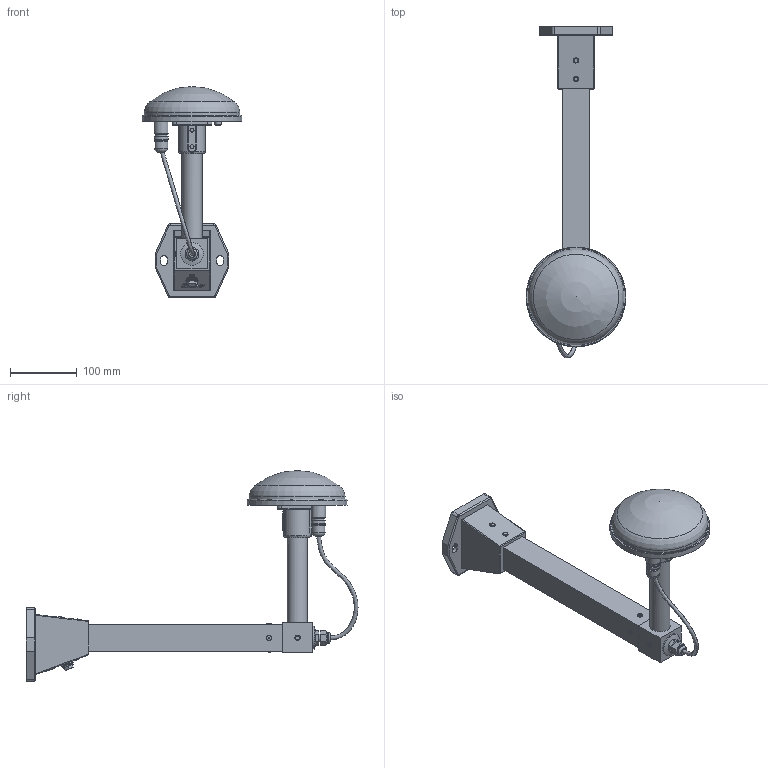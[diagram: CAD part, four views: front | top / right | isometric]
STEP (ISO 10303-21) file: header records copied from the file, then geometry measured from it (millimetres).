
FILE_DESCRIPTION(('FreeCAD Model'),'2;1');
FILE_NAME('Open CASCADE Shape Model','2022-03-23T12:42:27',('Author'),( ''),'Open CASCADE STEP processor 7.5','FreeCAD','Unknown');
FILE_SCHEMA(('AUTOMOTIVE_DESIGN { 1 0 10303 214 1 1 1 1 }'));
Length unit declared in the file: millimetre
Products named in the file (29): FG4490M00_gerade_mit_Heizung_v0103; GE449003_Alurohr-210mm; GE4418HK; Alu-Verbinder; GE441824_Alu-Verbinder; M8x10.0-ThreadedRod; ME0097_Blindstopfen; Vierkantrohr; GE441814_Vierkantrohr; ME1017_Blindniete001; ME1017_Blindniete002; ME1017_Blindniete003; ME1017_Blindniete004; Antennenfuss; M8x10.0-ThreadedRod001; M8x10.0-ThreadedRod002; Erdung; M8x20-Screw; Unterlegscheibe001; Unterlegscheibe002; _SFS FN 549 136412 Zahnscheibe DIN 6797 Federstahl   verzinkt blau 
J10.5; GE441811_Alu-Gussfuss; PG9; GE449003_Antenne_mit_Heizung_v0100; Deckel; Boden; Flansch; Heizung; Sweep001
Assembly tree (28 placements, depth 5):
  FG4490M00_gerade_mit_Heizung_v0103
    GE449003_Alurohr-210mm
    GE4418HK
      Alu-Verbinder
        GE441824_Alu-Verbinder
        M8x10.0-ThreadedRod
        ME0097_Blindstopfen
      Vierkantrohr
        GE441814_Vierkantrohr
        ME1017_Blindniete001
        ME1017_Blindniete002
        ME1017_Blindniete003
        ME1017_Blindniete004
      Antennenfuss
        M8x10.0-ThreadedRod001
        M8x10.0-ThreadedRod002
        Erdung
          M8x20-Screw
          Unterlegscheibe001
          Unterlegscheibe002
          _SFS FN 549 136412 Zahnscheibe DIN 6797 Federstahl   verzinkt blau 
J10.5
        GE441811_Alu-Gussfuss
    PG9
    GE449003_Antenne_mit_Heizung_v0100
      Deckel
      Boden
      Flansch
      Heizung
    Sweep001
Bounding box: 149.03 x 495.93 x 315 mm (x, y, z)
Volume: 666077.7 mm3; surface area: 364193.3 mm2
Topology: 21 solids, 22 shells, 693 faces, 1717 edges, 1109 vertices
Faces by surface type: plane 296, extrusion 168, cylinder 148, torus 28, bspline 18, sphere 17, cone 16, revolution 2
Full cylindrical faces by diameter (mm): 2 x4, 2.5 x4, 3 x4, 3.3 x1, 5 x4, 6 x7, 6.8 x3, 7 x9, 8 x2, 8.08 x3, 8.4 x2, 9.5 x1, 10 x1, 11.7 x1, 12 x1, 14 x1, 16 x4, 18 x2, 20 x1, 20.5 x1, 21 x1, 21.5 x1, 23.5 x1, 24 x1, 27 x1, 29 x1, 30 x1, 30.4 x1, 30.5 x4, 31 x1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
Entity records: 60292 total; most frequent: CARTESIAN_POINT 26502, DIRECTION 5541, VECTOR 3480, ORIENTED_EDGE 3416, PCURVE 3416, DEFINITIONAL_REPRESENTATION 3416, LINE 3312, EDGE_CURVE 1709
